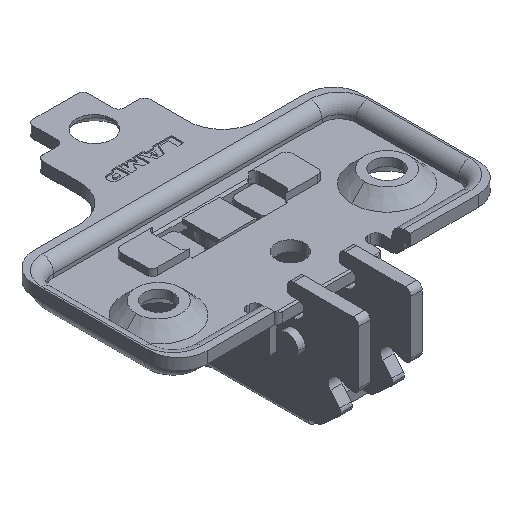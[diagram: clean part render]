
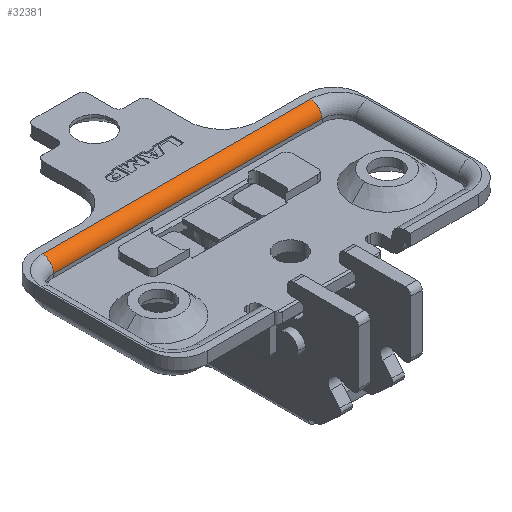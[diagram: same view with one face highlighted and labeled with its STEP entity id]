
A CAD part, isometric view. The second image highlights one B-rep face of the part: STEP entity #32381.
In plain terms, the highlighted cylindrical face has radius 1.6 mm (diameter 3.2 mm), a partial arc.
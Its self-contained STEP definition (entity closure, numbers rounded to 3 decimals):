
#20968 = CARTESIAN_POINT ( 'NONE',  ( 18.8, -13.1, -1.6 ) ) ;
#20997 = CIRCLE ( 'NONE', #21008, 1.6 ) ;
#21000 = DIRECTION ( 'NONE',  ( 1., 0., 0. ) ) ;
#21001 = CARTESIAN_POINT ( 'NONE',  ( 18.8, -11.5, -1.6 ) ) ;
#21005 = DIRECTION ( 'NONE',  ( 0., 0., -1. ) ) ;
#21008 = AXIS2_PLACEMENT_3D ( 'NONE', #21001, #21000, #21005 ) ;
#21021 = CARTESIAN_POINT ( 'NONE',  ( -18.8, -13.1, -1.6 ) ) ;
#21172 = LINE ( 'NONE', #21214, #21213 ) ;
#21184 = CARTESIAN_POINT ( 'NONE',  ( 18.8, -11.5, 0. ) ) ;
#21212 = DIRECTION ( 'NONE',  ( -1., 0., 0. ) ) ;
#21213 = VECTOR ( 'NONE', #21212, 1000. ) ;
#21214 = CARTESIAN_POINT ( 'NONE',  ( -18.8, -13.1, -1.6 ) ) ;
#22288 = AXIS2_PLACEMENT_3D ( 'NONE', #22305, #22313, #22293 ) ;
#22289 = FACE_OUTER_BOUND ( 'NONE', #32380, .T. ) ;
#22293 = DIRECTION ( 'NONE',  ( 0., 0., -1. ) ) ;
#22305 = CARTESIAN_POINT ( 'NONE',  ( -18.8, -11.5, -1.6 ) ) ;
#22313 = DIRECTION ( 'NONE',  ( 1., 0., 0. ) ) ;
#22316 = CYLINDRICAL_SURFACE ( 'NONE', #22288, 1.6 ) ;
#22349 = CARTESIAN_POINT ( 'NONE',  ( 18.8, -11.5, 0. ) ) ;
#22350 = LINE ( 'NONE', #22349, #22407 ) ;
#22386 = CARTESIAN_POINT ( 'NONE',  ( -18.8, -11.5, 0. ) ) ;
#22389 = DIRECTION ( 'NONE',  ( 0., 0., -1. ) ) ;
#22390 = DIRECTION ( 'NONE',  ( 1., 0., 0. ) ) ;
#22391 = CARTESIAN_POINT ( 'NONE',  ( -18.8, -11.5, -1.6 ) ) ;
#22392 = AXIS2_PLACEMENT_3D ( 'NONE', #22391, #22390, #22389 ) ;
#22395 = CIRCLE ( 'NONE', #22392, 1.6 ) ;
#22406 = DIRECTION ( 'NONE',  ( 1., 0., 0. ) ) ;
#22407 = VECTOR ( 'NONE', #22406, 1000. ) ;
#28561 = ORIENTED_EDGE ( 'NONE', *, *, #32423, .T. ) ;
#32201 = VERTEX_POINT ( 'NONE', #21021 ) ;
#32207 = VERTEX_POINT ( 'NONE', #20968 ) ;
#32305 = EDGE_CURVE ( 'NONE', #32207, #32201, #21172, .T. ) ;
#32343 = VERTEX_POINT ( 'NONE', #21184 ) ;
#32368 = EDGE_CURVE ( 'NONE', #32343, #32207, #20997, .T. ) ;
#32380 = EDGE_LOOP ( 'NONE', ( #28561, #32418, #32411, #32426 ) ) ;
#32381 = ADVANCED_FACE ( 'NONE', ( #22289 ), #22316, .T. ) ;
#32411 = ORIENTED_EDGE ( 'NONE', *, *, #32368, .F. ) ;
#32414 = EDGE_CURVE ( 'NONE', #32429, #32343, #22350, .T. ) ;
#32418 = ORIENTED_EDGE ( 'NONE', *, *, #32305, .F. ) ;
#32423 = EDGE_CURVE ( 'NONE', #32429, #32201, #22395, .T. ) ;
#32426 = ORIENTED_EDGE ( 'NONE', *, *, #32414, .F. ) ;
#32429 = VERTEX_POINT ( 'NONE', #22386 ) ;
